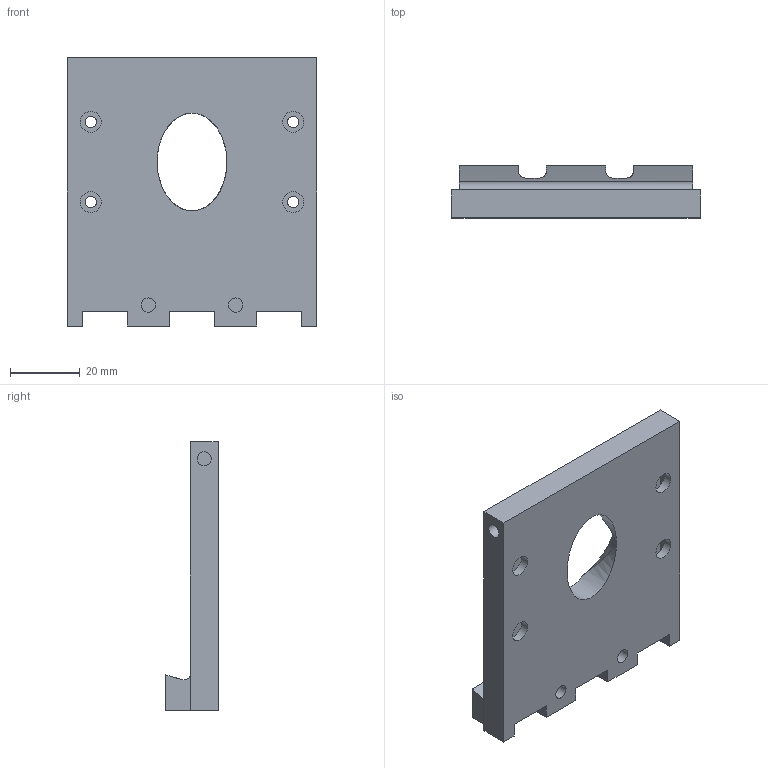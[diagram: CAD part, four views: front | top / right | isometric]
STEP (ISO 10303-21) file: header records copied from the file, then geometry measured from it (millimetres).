
FILE_DESCRIPTION(/* description */ (''),/* implementation_level */ '2;1');
FILE_NAME(/* name */ '1-21-1 Rear.step',/* time_stamp */ '2025-05-10T21:34:56+02:00',/* author */ (''),/* organization */ (''),/* preprocessor_version */ 'ST-DEVELOPER v20.1',/* originating_system */ 'Autodesk Translation Framework v14.4.0.0',/* authorisation */ '');
FILE_SCHEMA (('AUTOMOTIVE_DESIGN { 1 0 10303 214 3 1 1 }'));
Length unit declared in the file: millimetre
Products named in the file (1): 1-21-1 Rear
Bounding box: 71.4 x 15 x 76.8 mm (x, y, z)
Volume: 39029.2 mm3; surface area: 14935.2 mm2
Topology: 1 solids, 1 shells, 58 faces, 148 edges, 96 vertices
Faces by surface type: plane 30, cylinder 21, cone 4, bspline 3
Full cylindrical faces by diameter (mm): 3.2 x4, 4.1 x4, 6 x4
Entity records: 2027 total; most frequent: CARTESIAN_POINT 542, DIRECTION 298, ORIENTED_EDGE 296, EDGE_CURVE 148, AXIS2_PLACEMENT_3D 102, VERTEX_POINT 96, LINE 94, VECTOR 94
